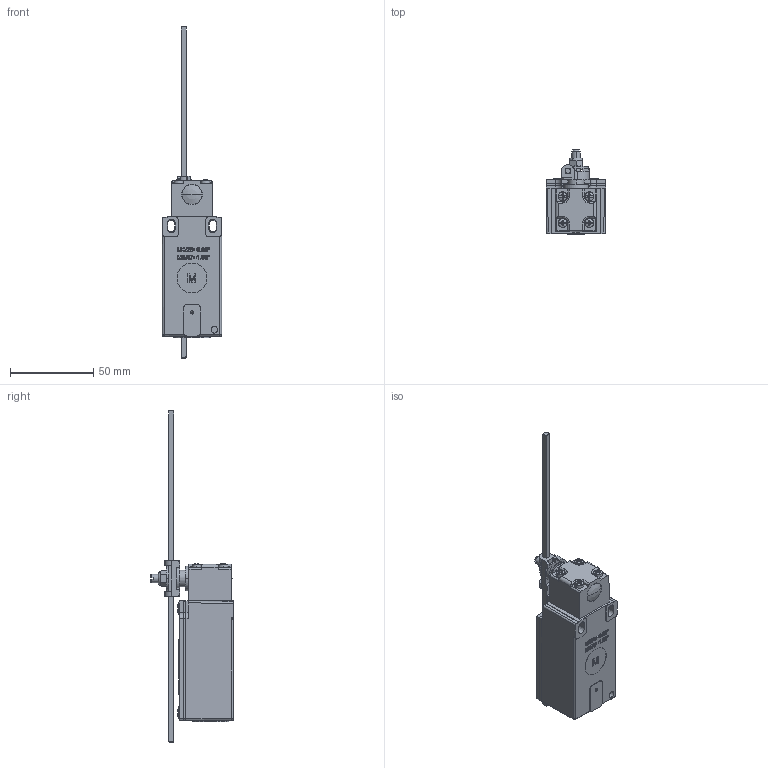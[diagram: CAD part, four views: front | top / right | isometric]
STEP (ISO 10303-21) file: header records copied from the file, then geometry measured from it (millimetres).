
FILE_DESCRIPTION((''),'2;1');
FILE_NAME('GC1-AD_SW0001','2008-06-09T',('K.Falk'),(''),'PRO/ENGINEER BY PARAMETRIC TECHNOLOGY CORPORATION, 2005070','PRO/ENGINEER BY PARAMETRIC TECHNOLOGY CORPORATION, 2005070','');
FILE_SCHEMA(('AUTOMOTIVE_DESIGN_CC2 { 1 2 10303 214 -1 1 5 2 }'));
Length unit declared in the file: millimetre
Products named in the file (1): GC1-AD_SW0001
Bounding box: 36 x 50.5 x 200 mm (x, y, z)
Surface area: 29468 mm2 (no closed solid volume)
Topology: 0 solids, 35 shells, 693 faces, 2404 edges, 1676 vertices
Faces by surface type: plane 425, extrusion 105, cylinder 83, cone 58, sphere 16, torus 6
Entity records: 38972 total; most frequent: CARTESIAN_POINT 7672, ORIENTED_EDGE 3838, DIRECTION 3470, PRESENTATION_STYLE_ASSIGNMENT 3109, STYLED_ITEM 2498, CURVE_STYLE 2477, EDGE_CURVE 2372, VERTEX_POINT 1674
